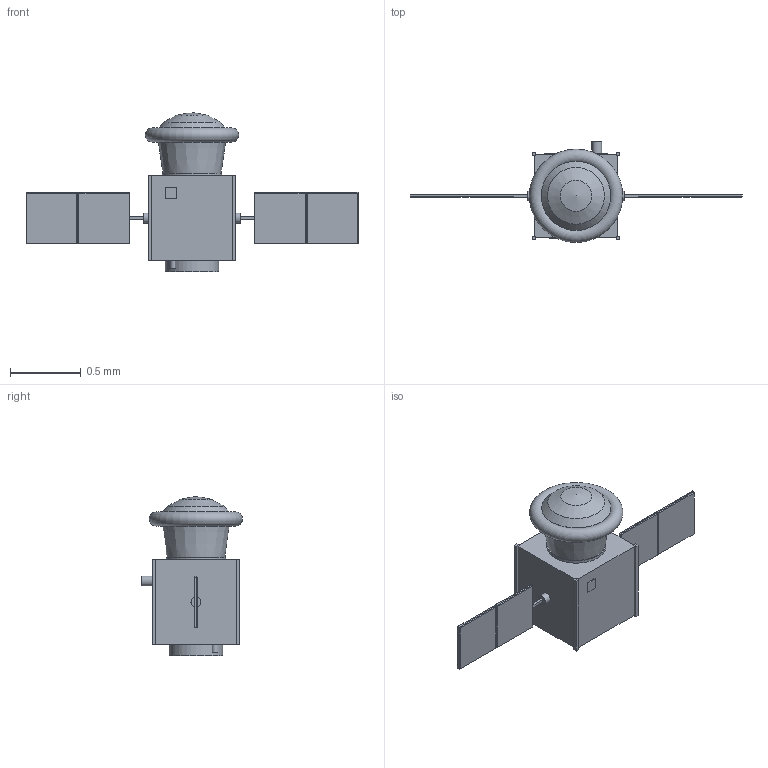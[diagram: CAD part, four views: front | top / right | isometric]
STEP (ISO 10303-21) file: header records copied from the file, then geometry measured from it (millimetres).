
FILE_DESCRIPTION(('Open CASCADE Model'),'2;1');
FILE_NAME('Open CASCADE Shape Model','2026-10-04T09:01:26',('Author'),( 'Open CASCADE'),'Open CASCADE STEP processor 7.9','Open CASCADE 7.9' ,'Unknown');
FILE_SCHEMA(('AUTOMOTIVE_DESIGN { 1 0 10303 214 1 1 1 1 }'));
Length unit declared in the file: millimetre
Products named in the file (45): SP-BONE; capsule_backshell; nose; heat_shield_packed; sample_drawer; sample_cassette_1; sample_cassette_2; sample_cassette_3; optical_window; capsule_avionics_and_hold_battery; parachute_canister; recovery_beacon; separation_interface; service_module_structure; corner_rail_-X-Y; corner_rail_-X+Y; corner_rail_+X-Y; corner_rail_+X+Y; radiator_+Y_face; experiment_instruments_microscope_pumps_reservoirs; propellant_tank_LMP-103S; battery; on-board_computer_and_radios; reaction_wheel_1; reaction_wheel_2; reaction_wheel_3; magnetorquer_1; magnetorquer_2; star_tracker; S-band_antenna; 22_N_thruster_1; 22_N_thruster_2; launch_separation_ring; array_drive_-X; yoke_-X; solar_panel_-X1; panel_frame_-X1; solar_panel_-X2; panel_frame_-X2; array_drive_+X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
Assembly tree (44 placements, depth 2):
  SP-BONE
    capsule_backshell
    nose
    heat_shield_packed
    sample_drawer
    sample_cassette_1
    sample_cassette_2
    sample_cassette_3
    optical_window
    capsule_avionics_and_hold_battery
    parachute_canister
    recovery_beacon
    separation_interface
    service_module_structure
    corner_rail_-X-Y
    corner_rail_-X+Y
    corner_rail_+X-Y
    corner_rail_+X+Y
    radiator_+Y_face
    experiment_instruments_microscope_pumps_reservoirs
    propellant_tank_LMP-103S
    battery
    on-board_computer_and_radios
    reaction_wheel_1
    reaction_wheel_2
    reaction_wheel_3
    magnetorquer_1
    magnetorquer_2
    star_tracker
    S-band_antenna
    22_N_thruster_1
    22_N_thruster_2
    launch_separation_ring
    array_drive_-X
    yoke_-X
    solar_panel_-X1
    panel_frame_-X1
    solar_panel_-X2
    panel_frame_-X2
    array_drive_+X
    yoke_+X
    solar_panel_+X1
    panel_frame_+X1
    solar_panel_+X2
    panel_frame_+X2
Bounding box: 2.35 x 0.72 x 1.13 mm (x, y, z)
Volume: 0.3 mm3; surface area: 8.7 mm2
Topology: 44 solids, 44 shells, 209 faces, 374 edges, 248 vertices
Faces by surface type: plane 187, cylinder 16, cone 4, torus 1, sphere 1
Full cylindrical faces by diameter (mm): 0.024 x2, 0.04 x1, 0.045 x2, 0.07 x3, 0.09 x3, 0.14 x1, 0.341 x1, 0.381 x1, 0.423 x1, 0.491 x1
Entity records: 10875 total; most frequent: DIRECTION 1656, CARTESIAN_POINT 1611, LINE 1039, VECTOR 1039, ORIENTED_EDGE 740, PCURVE 740, DEFINITIONAL_REPRESENTATION 740, EDGE_CURVE 370
